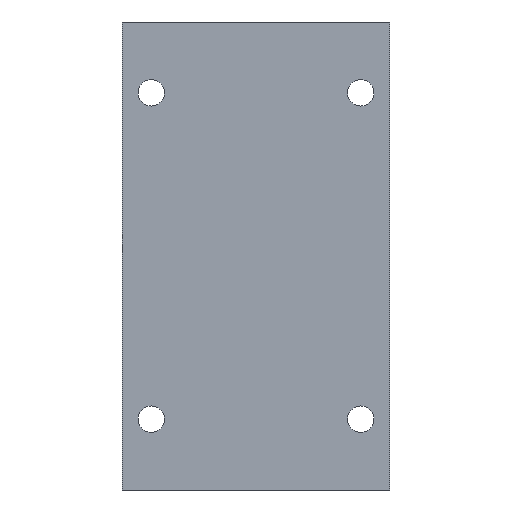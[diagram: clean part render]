
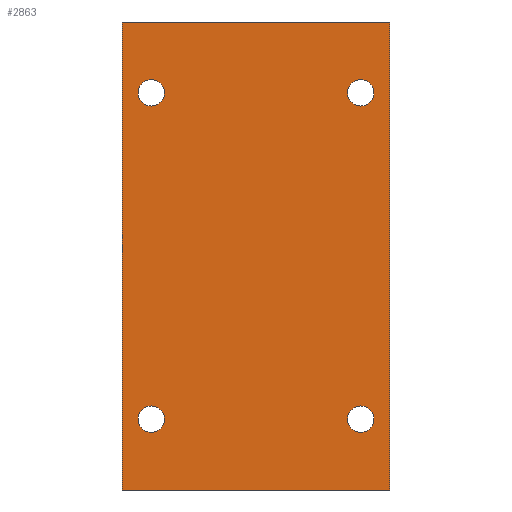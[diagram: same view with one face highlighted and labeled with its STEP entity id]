
A CAD part, front view. The second image highlights one B-rep face of the part: STEP entity #2863.
In plain terms, the highlighted planar face has unit normal (0, -1, 0).
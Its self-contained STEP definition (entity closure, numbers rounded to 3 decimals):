
#34 = EDGE_LOOP ( 'NONE', ( #1959, #2072 ) ) ;
#37 = FACE_BOUND ( 'NONE', #2454, .T. ) ;
#64 = CIRCLE ( 'NONE', #1401, 4.3 ) ;
#74 = EDGE_CURVE ( 'NONE', #730, #688, #1529, .T. ) ;
#76 = VECTOR ( 'NONE', #2476, 1000. ) ;
#110 = DIRECTION ( 'NONE',  ( 1., 0., 0. ) ) ;
#111 = FACE_BOUND ( 'NONE', #2621, .T. ) ;
#202 = EDGE_CURVE ( 'NONE', #1911, #1497, #827, .T. ) ;
#226 = ORIENTED_EDGE ( 'NONE', *, *, #310, .F. ) ;
#298 = AXIS2_PLACEMENT_3D ( 'NONE', #868, #370, #1059 ) ;
#310 = EDGE_CURVE ( 'NONE', #1644, #2188, #2161, .T. ) ;
#345 = ORIENTED_EDGE ( 'NONE', *, *, #548, .T. ) ;
#351 = CARTESIAN_POINT ( 'NONE',  ( -43.5, -30., 76. ) ) ;
#353 = DIRECTION ( 'NONE',  ( 0., 1., 0. ) ) ;
#370 = DIRECTION ( 'NONE',  ( 0., -1., 0. ) ) ;
#445 = EDGE_CURVE ( 'NONE', #1497, #1911, #1957, .T. ) ;
#458 = VERTEX_POINT ( 'NONE', #708 ) ;
#513 = ORIENTED_EDGE ( 'NONE', *, *, #669, .F. ) ;
#548 = EDGE_CURVE ( 'NONE', #458, #707, #972, .T. ) ;
#562 = DIRECTION ( 'NONE',  ( 0., 0., -1. ) ) ;
#586 = ORIENTED_EDGE ( 'NONE', *, *, #2414, .F. ) ;
#588 = CARTESIAN_POINT ( 'NONE',  ( -34., -30., 48.7 ) ) ;
#599 = FACE_BOUND ( 'NONE', #34, .T. ) ;
#611 = ORIENTED_EDGE ( 'NONE', *, *, #2904, .F. ) ;
#635 = CARTESIAN_POINT ( 'NONE',  ( -43.5, -30., 76. ) ) ;
#669 = EDGE_CURVE ( 'NONE', #1343, #2368, #64, .T. ) ;
#688 = VERTEX_POINT ( 'NONE', #1007 ) ;
#707 = VERTEX_POINT ( 'NONE', #2022 ) ;
#708 = CARTESIAN_POINT ( 'NONE',  ( -43.5, -30., -76. ) ) ;
#730 = VERTEX_POINT ( 'NONE', #2919 ) ;
#759 = CARTESIAN_POINT ( 'NONE',  ( -43.5, -30., -76. ) ) ;
#783 = DIRECTION ( 'NONE',  ( 0., 0., -1. ) ) ;
#816 = LINE ( 'NONE', #1034, #2300 ) ;
#827 = CIRCLE ( 'NONE', #1223, 4.3 ) ;
#868 = CARTESIAN_POINT ( 'NONE',  ( -34., -30., -53. ) ) ;
#877 = CARTESIAN_POINT ( 'NONE',  ( -34., -30., -48.7 ) ) ;
#894 = DIRECTION ( 'NONE',  ( 0., -1., 0. ) ) ;
#932 = EDGE_LOOP ( 'NONE', ( #345, #586, #1860, #1298 ) ) ;
#972 = LINE ( 'NONE', #759, #76 ) ;
#991 = DIRECTION ( 'NONE',  ( 0., -1., 0. ) ) ;
#995 = DIRECTION ( 'NONE',  ( 0., -1., 0. ) ) ;
#999 = AXIS2_PLACEMENT_3D ( 'NONE', #1395, #2860, #2619 ) ;
#1002 = VERTEX_POINT ( 'NONE', #2148 ) ;
#1007 = CARTESIAN_POINT ( 'NONE',  ( 34., -30., -57.3 ) ) ;
#1010 = EDGE_CURVE ( 'NONE', #688, #730, #2634, .T. ) ;
#1015 = ORIENTED_EDGE ( 'NONE', *, *, #1460, .F. ) ;
#1034 = CARTESIAN_POINT ( 'NONE',  ( 43.5, -30., 76. ) ) ;
#1042 = PLANE ( 'NONE',  #2200 ) ;
#1057 = LINE ( 'NONE', #635, #2302 ) ;
#1059 = DIRECTION ( 'NONE',  ( 0., 0., -1. ) ) ;
#1189 = ORIENTED_EDGE ( 'NONE', *, *, #445, .F. ) ;
#1223 = AXIS2_PLACEMENT_3D ( 'NONE', #1958, #995, #2478 ) ;
#1226 = EDGE_CURVE ( 'NONE', #3051, #1002, #2743, .T. ) ;
#1290 = DIRECTION ( 'NONE',  ( 0., 0., -1. ) ) ;
#1298 = ORIENTED_EDGE ( 'NONE', *, *, #2828, .T. ) ;
#1304 = DIRECTION ( 'NONE',  ( 0., 0., 1. ) ) ;
#1311 = CARTESIAN_POINT ( 'NONE',  ( 34., -30., 48.7 ) ) ;
#1343 = VERTEX_POINT ( 'NONE', #3079 ) ;
#1395 = CARTESIAN_POINT ( 'NONE',  ( 34., -30., 53. ) ) ;
#1401 = AXIS2_PLACEMENT_3D ( 'NONE', #2713, #2447, #562 ) ;
#1414 = CARTESIAN_POINT ( 'NONE',  ( 34., -30., 57.3 ) ) ;
#1442 = CARTESIAN_POINT ( 'NONE',  ( 34., -30., -53. ) ) ;
#1460 = EDGE_CURVE ( 'NONE', #2188, #1644, #2088, .T. ) ;
#1497 = VERTEX_POINT ( 'NONE', #1311 ) ;
#1529 = CIRCLE ( 'NONE', #2246, 4.3 ) ;
#1553 = DIRECTION ( 'NONE',  ( 0., 0., -1. ) ) ;
#1576 = CARTESIAN_POINT ( 'NONE',  ( 34., -30., -53. ) ) ;
#1644 = VERTEX_POINT ( 'NONE', #1934 ) ;
#1742 = EDGE_LOOP ( 'NONE', ( #226, #1015 ) ) ;
#1831 = VECTOR ( 'NONE', #110, 1000. ) ;
#1860 = ORIENTED_EDGE ( 'NONE', *, *, #1226, .F. ) ;
#1887 = AXIS2_PLACEMENT_3D ( 'NONE', #2569, #894, #3064 ) ;
#1911 = VERTEX_POINT ( 'NONE', #1414 ) ;
#1927 = AXIS2_PLACEMENT_3D ( 'NONE', #1442, #991, #2446 ) ;
#1934 = CARTESIAN_POINT ( 'NONE',  ( -34., -30., -57.3 ) ) ;
#1957 = CIRCLE ( 'NONE', #999, 4.3 ) ;
#1958 = CARTESIAN_POINT ( 'NONE',  ( 34., -30., 53. ) ) ;
#1959 = ORIENTED_EDGE ( 'NONE', *, *, #1010, .F. ) ;
#2007 = CARTESIAN_POINT ( 'NONE',  ( -43.5, -30., 76. ) ) ;
#2018 = ORIENTED_EDGE ( 'NONE', *, *, #202, .F. ) ;
#2022 = CARTESIAN_POINT ( 'NONE',  ( 43.5, -30., -76. ) ) ;
#2072 = ORIENTED_EDGE ( 'NONE', *, *, #74, .F. ) ;
#2088 = CIRCLE ( 'NONE', #2488, 4.3 ) ;
#2106 = DIRECTION ( 'NONE',  ( 0., -1., 0. ) ) ;
#2148 = CARTESIAN_POINT ( 'NONE',  ( 43.5, -30., 76. ) ) ;
#2161 = CIRCLE ( 'NONE', #298, 4.3 ) ;
#2188 = VERTEX_POINT ( 'NONE', #877 ) ;
#2200 = AXIS2_PLACEMENT_3D ( 'NONE', #2007, #353, #1304 ) ;
#2246 = AXIS2_PLACEMENT_3D ( 'NONE', #1576, #2106, #3041 ) ;
#2300 = VECTOR ( 'NONE', #1553, 1000. ) ;
#2302 = VECTOR ( 'NONE', #1290, 1000. ) ;
#2345 = CARTESIAN_POINT ( 'NONE',  ( -43.5, -30., 76. ) ) ;
#2368 = VERTEX_POINT ( 'NONE', #588 ) ;
#2414 = EDGE_CURVE ( 'NONE', #1002, #707, #816, .T. ) ;
#2421 = CARTESIAN_POINT ( 'NONE',  ( -34., -30., -53. ) ) ;
#2446 = DIRECTION ( 'NONE',  ( 0., 0., -1. ) ) ;
#2447 = DIRECTION ( 'NONE',  ( 0., -1., 0. ) ) ;
#2454 = EDGE_LOOP ( 'NONE', ( #611, #513 ) ) ;
#2476 = DIRECTION ( 'NONE',  ( 1., 0., 0. ) ) ;
#2478 = DIRECTION ( 'NONE',  ( 0., 0., -1. ) ) ;
#2488 = AXIS2_PLACEMENT_3D ( 'NONE', #2421, #2926, #783 ) ;
#2509 = FACE_OUTER_BOUND ( 'NONE', #932, .T. ) ;
#2557 = FACE_BOUND ( 'NONE', #1742, .T. ) ;
#2569 = CARTESIAN_POINT ( 'NONE',  ( -34., -30., 53. ) ) ;
#2619 = DIRECTION ( 'NONE',  ( 0., 0., -1. ) ) ;
#2621 = EDGE_LOOP ( 'NONE', ( #1189, #2018 ) ) ;
#2634 = CIRCLE ( 'NONE', #1927, 4.3 ) ;
#2713 = CARTESIAN_POINT ( 'NONE',  ( -34., -30., 53. ) ) ;
#2743 = LINE ( 'NONE', #351, #1831 ) ;
#2748 = CIRCLE ( 'NONE', #1887, 4.3 ) ;
#2828 = EDGE_CURVE ( 'NONE', #3051, #458, #1057, .T. ) ;
#2860 = DIRECTION ( 'NONE',  ( 0., -1., 0. ) ) ;
#2863 = ADVANCED_FACE ( 'NONE', ( #111, #2557, #37, #599, #2509 ), #1042, .F. ) ;
#2904 = EDGE_CURVE ( 'NONE', #2368, #1343, #2748, .T. ) ;
#2919 = CARTESIAN_POINT ( 'NONE',  ( 34., -30., -48.7 ) ) ;
#2926 = DIRECTION ( 'NONE',  ( 0., -1., 0. ) ) ;
#3041 = DIRECTION ( 'NONE',  ( 0., 0., -1. ) ) ;
#3051 = VERTEX_POINT ( 'NONE', #2345 ) ;
#3064 = DIRECTION ( 'NONE',  ( 0., 0., -1. ) ) ;
#3079 = CARTESIAN_POINT ( 'NONE',  ( -34., -30., 57.3 ) ) ;
